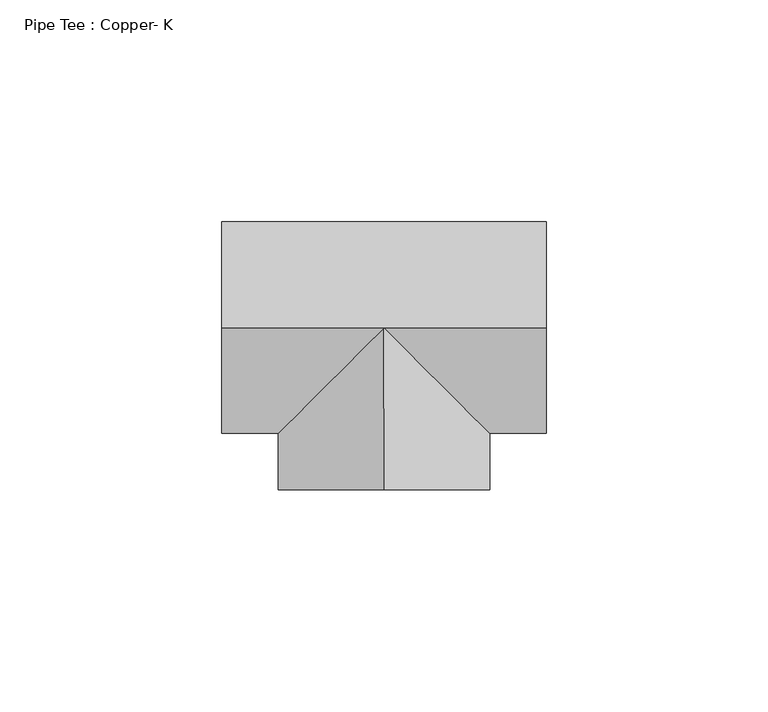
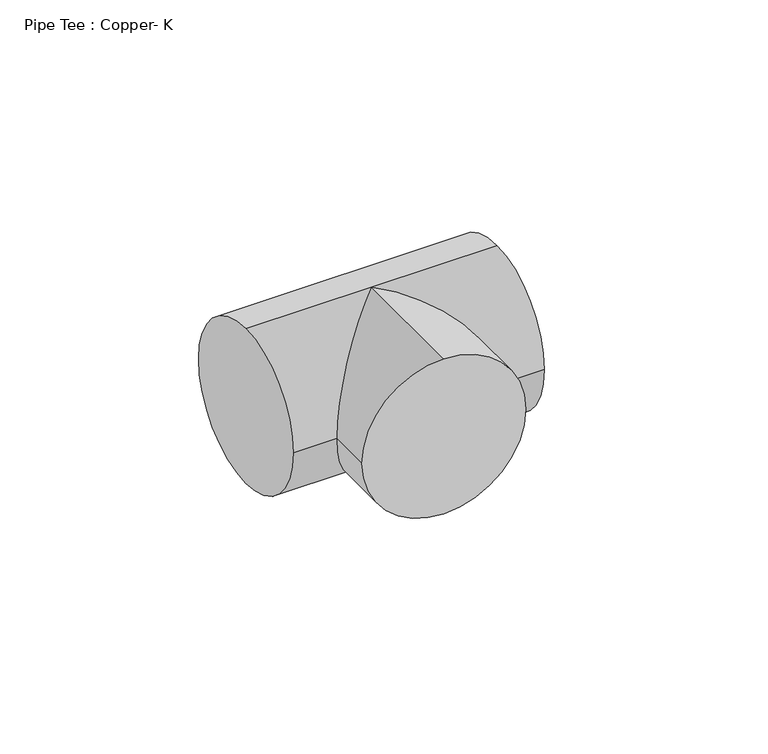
"""IFC4 building model written with IfcOpenShell, lengths in millimetres: pipe fitting geometry, Pipe Tee : Copper- K."""

from ifc_helpers import new_model, si_unit, frame, origin, place, context, project, spatial, circle_curve, ellipse_curve, source, transform, mapped, element, save
from ifc_brep_helpers import plane_surface, cylinder_surface, advanced_brep


def pipe_tee_copper_k_9bebaef1(model_context):
    return source(origin(), model_context, "Body", "AdvancedBrep", [
        advanced_brep(
        [(-36.5125, 0.0, 23.8125), (-36.5125, 23.8125, 0.0), (-36.5125, 0.0, -23.8125), (-36.5125, -23.8125, 0.0), (36.5125, 0.0, 23.8125), (36.5125, -23.8125, 0.0), (36.5125, 0.0, -23.8125), (36.5125, 23.8125, 0.0), (0.0, 0.0, 23.8125), (0.0, 0.0, -23.8125), (-23.8124979, -23.8125, 0.0), (23.8125021, -23.8125, 0.0), (3.3e-06, -36.5125, 23.8125), (-23.8124967, -36.5125021, 0.0), (3.3e-06, -36.5125, -23.8125), (23.8125033, -36.5124979, 0.0)],
        [
            (0, 1, circle_curve(frame((-36.5125, 0.0, 0.0), z_axis=(-1.0, 0.0, 0.0), x_axis=(0.0, 1.0, 0.0)), 23.8125)),
            (1, 2, circle_curve(frame((-36.5125, 0.0, 0.0), z_axis=(-1.0, 0.0, 0.0), x_axis=(0.0, 1.0, 0.0)), 23.8125)),
            (2, 3, circle_curve(frame((-36.5125, 0.0, 0.0), z_axis=(-1.0, 0.0, 0.0), x_axis=(0.0, 1.0, 0.0)), 23.8125)),
            (3, 0, circle_curve(frame((-36.5125, 0.0, 0.0), z_axis=(-1.0, 0.0, 0.0), x_axis=(0.0, 1.0, 0.0)), 23.8125)),
            (4, 5, circle_curve(frame((36.5125, 0.0, 0.0), z_axis=(1.0, 0.0, 0.0), x_axis=(0.0, 1.0, 0.0)), 23.8125)),
            (5, 6, circle_curve(frame((36.5125, 0.0, 0.0), z_axis=(1.0, 0.0, 0.0), x_axis=(0.0, 1.0, 0.0)), 23.8125)),
            (6, 7, circle_curve(frame((36.5125, 0.0, 0.0), z_axis=(1.0, 0.0, 0.0), x_axis=(0.0, 1.0, 0.0)), 23.8125)),
            (7, 4, circle_curve(frame((36.5125, 0.0, 0.0), z_axis=(1.0, 0.0, 0.0), x_axis=(0.0, 1.0, 0.0)), 23.8125)),
            (0, 8),
            (8, 4),
            (7, 1),
            (6, 9),
            (9, 2),
            (9, 10, ellipse_curve(frame((0.0, 0.0, 0.0), z_axis=(-0.7071068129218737, 0.7071067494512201, 0.0), x_axis=(-0.7071067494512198, -0.7071068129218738, 0.0)), 33.6759589, 23.8125)),
            (10, 3),
            (5, 11),
            (11, 9, ellipse_curve(frame((0.0, 0.0, 0.0), z_axis=(0.70710674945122, 0.7071068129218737, 0.0), x_axis=(-0.7071068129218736, 0.70710674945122, 0.0)), 33.675962, 23.8125)),
            (10, 8, ellipse_curve(frame((0.0, 0.0, 0.0), z_axis=(-0.7071068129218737, 0.7071067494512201, 0.0), x_axis=(-0.7071067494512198, -0.7071068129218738, 0.0)), 33.6759589, 23.8125)),
            (8, 11, ellipse_curve(frame((0.0, 0.0, 0.0), z_axis=(0.70710674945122, 0.7071068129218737, 0.0), x_axis=(-0.7071068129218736, 0.70710674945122, 0.0)), 33.675962, 23.8125)),
            (12, 13, circle_curve(frame((3.3e-06, -36.5125, 0.0), z_axis=(8.976105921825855e-08, -0.999999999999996, 0.0), x_axis=(0.999999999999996, 8.976105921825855e-08, 0.0)), 23.8125)),
            (13, 14, circle_curve(frame((3.3e-06, -36.5125, 0.0), z_axis=(8.976105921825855e-08, -0.999999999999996, 0.0), x_axis=(0.999999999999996, 8.976105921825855e-08, 0.0)), 23.8125)),
            (14, 15, circle_curve(frame((3.3e-06, -36.5125, 0.0), z_axis=(8.976105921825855e-08, -0.999999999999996, 0.0), x_axis=(0.999999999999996, 8.976105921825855e-08, 0.0)), 23.8125)),
            (15, 12, circle_curve(frame((3.3e-06, -36.5125, 0.0), z_axis=(8.976105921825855e-08, -0.999999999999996, 0.0), x_axis=(0.999999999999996, 8.976105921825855e-08, 0.0)), 23.8125)),
            (15, 11),
            (8, 12),
            (14, 9),
            (13, 10),
        ],
        [
            plane_surface(frame((-36.5125, 0.0, 0.0), z_axis=(-1.0, 0.0, 0.0), x_axis=(0.0, 0.0, 1.0))),
            plane_surface(frame((36.5125, 0.0, 0.0), z_axis=(1.0, 0.0, 0.0), x_axis=(0.0, 0.0, 1.0))),
            cylinder_surface(frame((-36.5125, 0.0, 0.0), z_axis=(-1.0, 0.0, 0.0), x_axis=(0.0, 1.0, 0.0)), 23.8125),
            plane_surface(frame((3.3e-06, -36.5125, 0.0), z_axis=(8.976105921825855e-08, -0.999999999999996, 0.0), x_axis=(0.0, 0.0, 1.0))),
            cylinder_surface(frame((0.0, 0.0, 0.0), z_axis=(-8.976105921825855e-08, 0.999999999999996, 0.0), x_axis=(0.999999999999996, 8.976105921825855e-08, 0.0)), 23.8125),
        ],
        [
            (0, [[1, 2, 3, 4]]),
            (1, [[5, 6, 7, 8]]),
            (2, [[-1, 9, 10, -8, 11]]),
            (2, [[-2, -11, -7, 12, 13]]),
            (2, [[-3, -13, 14, 15]]),
            (2, [[-6, 16, 17, -12]]),
            (2, [[-4, -15, 18, -9]]),
            (2, [[-5, -10, 19, -16]]),
            (3, [[20, 21, 22, 23]]),
            (4, [[-23, 24, -19, 25]]),
            (4, [[-22, 26, -17, -24]]),
            (4, [[-21, 27, -14, -26]]),
            (4, [[-20, -25, -18, -27]]),
        ],
    ),
        advanced_brep(
        [(-36.5125, 0.0, 23.8125), (-36.5125, 23.8125, 0.0), (-36.5125, 0.0, -23.8125), (-36.5125, -23.8125, 0.0), (36.5125, 0.0, 23.8125), (36.5125, -23.8125, 0.0), (36.5125, 0.0, -23.8125), (36.5125, 23.8125, 0.0), (0.0, 0.0, 23.8125), (0.0, 0.0, -23.8125), (-23.8124979, -23.8125, 0.0), (23.8125021, -23.8125, 0.0), (3.3e-06, -36.5125, 23.8125), (-23.8124967, -36.5125021, 0.0), (3.3e-06, -36.5125, -23.8125), (23.8125033, -36.5124979, 0.0)],
        [
            (0, 1, circle_curve(frame((-36.5125, 0.0, 0.0), z_axis=(-1.0, 0.0, 0.0), x_axis=(0.0, 1.0, 0.0)), 23.8125)),
            (1, 2, circle_curve(frame((-36.5125, 0.0, 0.0), z_axis=(-1.0, 0.0, 0.0), x_axis=(0.0, 1.0, 0.0)), 23.8125)),
            (2, 3, circle_curve(frame((-36.5125, 0.0, 0.0), z_axis=(-1.0, 0.0, 0.0), x_axis=(0.0, 1.0, 0.0)), 23.8125)),
            (3, 0, circle_curve(frame((-36.5125, 0.0, 0.0), z_axis=(-1.0, 0.0, 0.0), x_axis=(0.0, 1.0, 0.0)), 23.8125)),
            (4, 5, circle_curve(frame((36.5125, 0.0, 0.0), z_axis=(1.0, 0.0, 0.0), x_axis=(0.0, 1.0, 0.0)), 23.8125)),
            (5, 6, circle_curve(frame((36.5125, 0.0, 0.0), z_axis=(1.0, 0.0, 0.0), x_axis=(0.0, 1.0, 0.0)), 23.8125)),
            (6, 7, circle_curve(frame((36.5125, 0.0, 0.0), z_axis=(1.0, 0.0, 0.0), x_axis=(0.0, 1.0, 0.0)), 23.8125)),
            (7, 4, circle_curve(frame((36.5125, 0.0, 0.0), z_axis=(1.0, 0.0, 0.0), x_axis=(0.0, 1.0, 0.0)), 23.8125)),
            (0, 8),
            (8, 4),
            (7, 1),
            (6, 9),
            (9, 2),
            (9, 10, ellipse_curve(frame((0.0, 0.0, 0.0), z_axis=(-0.7071068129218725, 0.7071067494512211, 0.0), x_axis=(-0.7071067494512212, -0.7071068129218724, 0.0)), 33.6759589, 23.8125)),
            (10, 3),
            (5, 11),
            (11, 9, ellipse_curve(frame((0.0, 0.0, 0.0), z_axis=(0.7071067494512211, 0.7071068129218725, 0.0), x_axis=(-0.7071068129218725, 0.7071067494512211, 0.0)), 33.675962, 23.8125)),
            (10, 8, ellipse_curve(frame((0.0, 0.0, 0.0), z_axis=(-0.7071068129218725, 0.7071067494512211, 0.0), x_axis=(-0.7071067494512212, -0.7071068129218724, 0.0)), 33.6759589, 23.8125)),
            (8, 11, ellipse_curve(frame((0.0, 0.0, 0.0), z_axis=(0.7071067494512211, 0.7071068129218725, 0.0), x_axis=(-0.7071068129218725, 0.7071067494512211, 0.0)), 33.675962, 23.8125)),
            (12, 13, circle_curve(frame((3.3e-06, -36.5125, 0.0), z_axis=(8.976105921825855e-08, -0.999999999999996, 0.0), x_axis=(0.999999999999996, 8.976105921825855e-08, 0.0)), 23.8125)),
            (13, 14, circle_curve(frame((3.3e-06, -36.5125, 0.0), z_axis=(8.976105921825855e-08, -0.999999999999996, 0.0), x_axis=(0.999999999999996, 8.976105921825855e-08, 0.0)), 23.8125)),
            (14, 15, circle_curve(frame((3.3e-06, -36.5125, 0.0), z_axis=(8.976105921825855e-08, -0.999999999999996, 0.0), x_axis=(0.999999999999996, 8.976105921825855e-08, 0.0)), 23.8125)),
            (15, 12, circle_curve(frame((3.3e-06, -36.5125, 0.0), z_axis=(8.976105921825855e-08, -0.999999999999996, 0.0), x_axis=(0.999999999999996, 8.976105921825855e-08, 0.0)), 23.8125)),
            (15, 11),
            (8, 12),
            (14, 9),
            (13, 10),
        ],
        [
            plane_surface(frame((-36.5125, 0.0, 0.0), z_axis=(-1.0, 0.0, 0.0), x_axis=(0.0, 0.0, 1.0))),
            plane_surface(frame((36.5125, 0.0, 0.0), z_axis=(1.0, 0.0, 0.0), x_axis=(0.0, 0.0, 1.0))),
            cylinder_surface(frame((-36.5125, 0.0, 0.0), z_axis=(-1.0, 0.0, 0.0), x_axis=(0.0, 1.0, 0.0)), 23.8125),
            plane_surface(frame((3.3e-06, -36.5125, 0.0), z_axis=(8.976105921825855e-08, -0.999999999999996, 0.0), x_axis=(0.0, 0.0, 1.0))),
            cylinder_surface(frame((0.0, 0.0, 0.0), z_axis=(-8.976105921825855e-08, 0.999999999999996, 0.0), x_axis=(0.999999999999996, 8.976105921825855e-08, 0.0)), 23.8125),
        ],
        [
            (0, [[1, 2, 3, 4]]),
            (1, [[5, 6, 7, 8]]),
            (2, [[-1, 9, 10, -8, 11]]),
            (2, [[-2, -11, -7, 12, 13]]),
            (2, [[-3, -13, 14, 15]]),
            (2, [[-6, 16, 17, -12]]),
            (2, [[-4, -15, 18, -9]]),
            (2, [[-5, -10, 19, -16]]),
            (3, [[20, 21, 22, 23]]),
            (4, [[-23, 24, -19, 25]]),
            (4, [[-22, 26, -17, -24]]),
            (4, [[-21, 27, -14, -26]]),
            (4, [[-20, -25, -18, -27]]),
        ],
    ),
    ])


if __name__ == "__main__":
    model = new_model("IFC4")
    model_context = context("Model", 3, world=origin())
    ifc_project = project(units=[si_unit("LENGTHUNIT", "METRE", prefix="MILLI")], contexts=[model_context])
    site = spatial("IfcSite", under=ifc_project)
    building = spatial("IfcBuilding", under=site)
    placement = place(None, origin())
    pipe_tee_copper_k_shape = pipe_tee_copper_k_9bebaef1(model_context)
    element("IfcPipeFitting", 1, ObjectType="Pipe Tee : Copper- K", at=placement, inside=building, context=model_context, shape_type="MappedRepresentation", body=[
        mapped(pipe_tee_copper_k_shape, transform((0.0, 0.0, 0.0), x_axis=(1.0, 0.0, 0.0), y_axis=(0.0, 1.0, 0.0), z_axis=(0.0, 0.0, 1.0))),
    ])
    save(model, "model.ifc")
